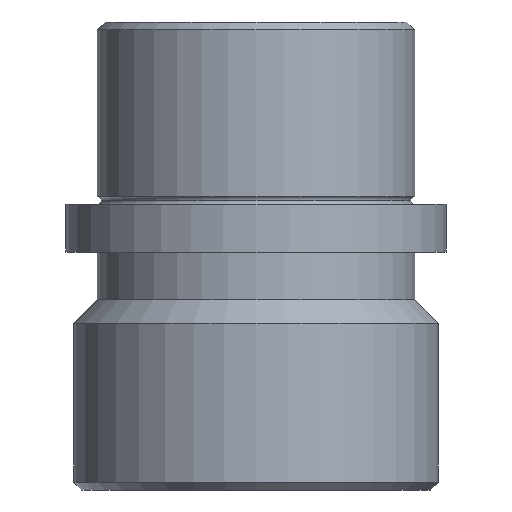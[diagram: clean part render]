
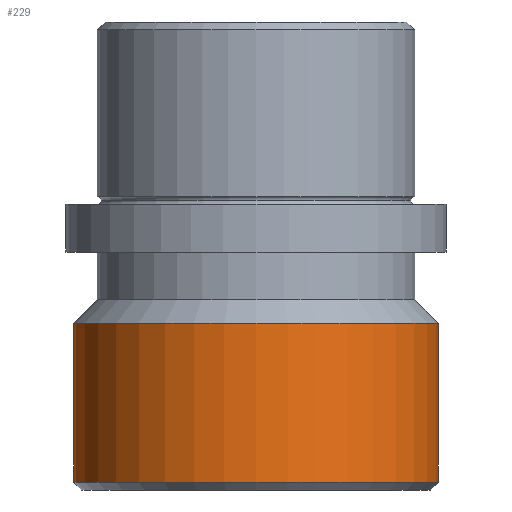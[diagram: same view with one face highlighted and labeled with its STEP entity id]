
A CAD part, front view. The second image highlights one B-rep face of the part: STEP entity #229.
In plain terms, the highlighted cylindrical face has radius 23 mm (diameter 46 mm), a partial arc.
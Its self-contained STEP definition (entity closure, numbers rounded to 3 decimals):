
#1 = VERTEX_POINT ( 'NONE', #608 ) ;
#4 = VECTOR ( 'NONE', #329, 1000. ) ;
#31 = LINE ( 'NONE', #648, #4 ) ;
#93 = ORIENTED_EDGE ( 'NONE', *, *, #476, .T. ) ;
#151 = CARTESIAN_POINT ( 'NONE',  ( -23., 0., -58. ) ) ;
#158 = DIRECTION ( 'NONE',  ( 1., 0., 0. ) ) ;
#216 = VERTEX_POINT ( 'NONE', #151 ) ;
#225 = DIRECTION ( 'NONE',  ( 0., 0., 1. ) ) ;
#229 = ADVANCED_FACE ( 'NONE', ( #659 ), #259, .T. ) ;
#248 = DIRECTION ( 'NONE',  ( 0., 0., 1. ) ) ;
#259 = CYLINDRICAL_SURFACE ( 'NONE', #688, 23. ) ;
#262 = CARTESIAN_POINT ( 'NONE',  ( 23., 0., -58. ) ) ;
#329 = DIRECTION ( 'NONE',  ( 0., 0., 1. ) ) ;
#394 = DIRECTION ( 'NONE',  ( 0., 0., 1. ) ) ;
#402 = CARTESIAN_POINT ( 'NONE',  ( 0., 0., -38. ) ) ;
#434 = CARTESIAN_POINT ( 'NONE',  ( -23., 0., -38. ) ) ;
#440 = LINE ( 'NONE', #912, #493 ) ;
#464 = EDGE_CURVE ( 'NONE', #216, #911, #440, .T. ) ;
#473 = CARTESIAN_POINT ( 'NONE',  ( 0., 0., 0. ) ) ;
#476 = EDGE_CURVE ( 'NONE', #597, #1, #31, .T. ) ;
#493 = VECTOR ( 'NONE', #908, 1000. ) ;
#549 = EDGE_CURVE ( 'NONE', #216, #597, #863, .T. ) ;
#597 = VERTEX_POINT ( 'NONE', #262 ) ;
#608 = CARTESIAN_POINT ( 'NONE',  ( 23., 0., -38. ) ) ;
#624 = DIRECTION ( 'NONE',  ( 1., 0., 0. ) ) ;
#648 = CARTESIAN_POINT ( 'NONE',  ( 23., 0., 0. ) ) ;
#652 = ORIENTED_EDGE ( 'NONE', *, *, #464, .F. ) ;
#659 = FACE_OUTER_BOUND ( 'NONE', #954, .T. ) ;
#688 = AXIS2_PLACEMENT_3D ( 'NONE', #473, #394, #693 ) ;
#693 = DIRECTION ( 'NONE',  ( 1., 0., 0. ) ) ;
#720 = CARTESIAN_POINT ( 'NONE',  ( 0., 0., -58. ) ) ;
#758 = ORIENTED_EDGE ( 'NONE', *, *, #827, .F. ) ;
#808 = ORIENTED_EDGE ( 'NONE', *, *, #549, .T. ) ;
#827 = EDGE_CURVE ( 'NONE', #911, #1, #842, .T. ) ;
#842 = CIRCLE ( 'NONE', #847, 23. ) ;
#847 = AXIS2_PLACEMENT_3D ( 'NONE', #402, #248, #158 ) ;
#863 = CIRCLE ( 'NONE', #918, 23. ) ;
#908 = DIRECTION ( 'NONE',  ( 0., 0., 1. ) ) ;
#911 = VERTEX_POINT ( 'NONE', #434 ) ;
#912 = CARTESIAN_POINT ( 'NONE',  ( -23., 0., 0. ) ) ;
#918 = AXIS2_PLACEMENT_3D ( 'NONE', #720, #225, #624 ) ;
#954 = EDGE_LOOP ( 'NONE', ( #652, #808, #93, #758 ) ) ;
